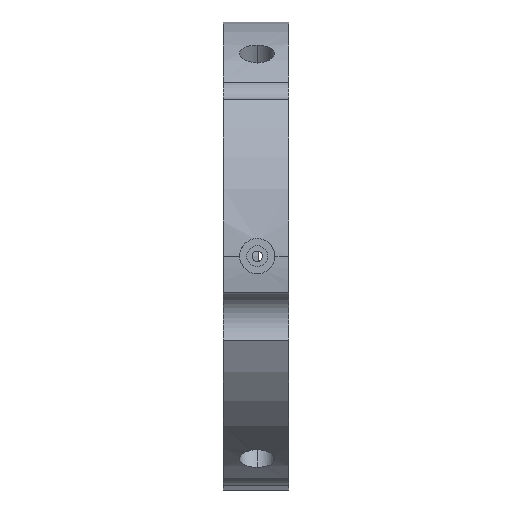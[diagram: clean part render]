
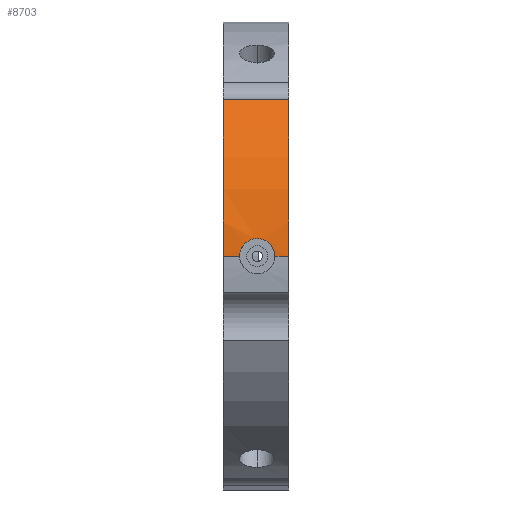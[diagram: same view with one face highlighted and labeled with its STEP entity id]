
A CAD part, left-side view. The second image highlights one B-rep face of the part: STEP entity #8703.
In plain terms, the highlighted cylindrical face has radius 90 mm (diameter 180 mm), a partial arc.
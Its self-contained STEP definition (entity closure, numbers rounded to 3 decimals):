
#34 = CARTESIAN_POINT ( 'NONE',  ( -89.984, 20.545, 1.754 ) ) ;
#73 = CARTESIAN_POINT ( 'NONE',  ( -89.857, 9.554, 5.088 ) ) ;
#272 = CARTESIAN_POINT ( 'NONE',  ( -89.747, 14.012, 6.75 ) ) ;
#592 = CARTESIAN_POINT ( 'NONE',  ( -89.996, 20.707, 0.883 ) ) ;
#688 = DIRECTION ( 'NONE',  ( 0., -1., 0. ) ) ;
#734 = CARTESIAN_POINT ( 'NONE',  ( -89.951, 20.078, 2.993 ) ) ;
#785 = CARTESIAN_POINT ( 'NONE',  ( -90., 7.262, 0. ) ) ;
#809 = CARTESIAN_POINT ( 'NONE',  ( -89.763, 12.262, 6.534 ) ) ;
#1043 = VERTEX_POINT ( 'NONE', #272 ) ;
#1160 = CIRCLE ( 'NONE', #3391, 90. ) ;
#1199 = LINE ( 'NONE', #1677, #2177 ) ;
#1379 = CARTESIAN_POINT ( 'NONE',  ( -89.759, 15.55, 6.576 ) ) ;
#1471 = CARTESIAN_POINT ( 'NONE',  ( -89.975, 20.418, 2.172 ) ) ;
#1491 = EDGE_CURVE ( 'NONE', #6153, #3607, #5077, .T. ) ;
#1533 = CARTESIAN_POINT ( 'NONE',  ( -90., 1.983, 0. ) ) ;
#1650 = CARTESIAN_POINT ( 'NONE',  ( -89.975, 7.606, 2.175 ) ) ;
#1677 = CARTESIAN_POINT ( 'NONE',  ( -90., -8.017, 0. ) ) ;
#1694 = CARTESIAN_POINT ( 'NONE',  ( -89.937, 8.163, 3.376 ) ) ;
#1792 = DIRECTION ( 'NONE',  ( 0., 1., 0. ) ) ;
#1852 = CARTESIAN_POINT ( 'NONE',  ( -66.921, 1.983, 60.18 ) ) ;
#1878 = DIRECTION ( 'NONE',  ( 0., 1., 0. ) ) ;
#1911 = ORIENTED_EDGE ( 'NONE', *, *, #6488, .F. ) ;
#2030 = CARTESIAN_POINT ( 'NONE',  ( -89.993, 20.674, 1.104 ) ) ;
#2118 = ORIENTED_EDGE ( 'NONE', *, *, #3964, .T. ) ;
#2177 = VECTOR ( 'NONE', #3833, 1000. ) ;
#2258 = CARTESIAN_POINT ( 'NONE',  ( -90., 26.983, 0. ) ) ;
#2303 = ORIENTED_EDGE ( 'NONE', *, *, #1491, .F. ) ;
#2346 = CARTESIAN_POINT ( 'NONE',  ( -90., 7.262, 0.443 ) ) ;
#2435 = CARTESIAN_POINT ( 'NONE',  ( -66.921, 9.483, 60.18 ) ) ;
#2557 = DIRECTION ( 'NONE',  ( 0., 1., 0. ) ) ;
#2594 = VERTEX_POINT ( 'NONE', #2258 ) ;
#2689 = CARTESIAN_POINT ( 'NONE',  ( -89.763, 15.762, 6.523 ) ) ;
#2698 = CARTESIAN_POINT ( 'NONE',  ( 0., 1.983, 0. ) ) ;
#2863 = B_SPLINE_CURVE_WITH_KNOTS ( 'NONE', 3,
 ( #3756, #2960, #6631, #809, #4510, #5838, #7984, #7380, #73, #3654, #5221, #5266, #2906, #7422, #1694, #8082, #3003, #1650, #6535, #5882, #2346, #8767 ),
 .UNSPECIFIED., .F., .F.,
 ( 4, 2, 2, 2, 2, 2, 2, 2, 2, 2, 4 ),
 ( 0., 0.125, 0.25, 0.375, 0.5, 0.562, 0.625, 0.687, 0.75, 0.875, 1. ),
 .UNSPECIFIED. ) ;
#2871 = CARTESIAN_POINT ( 'NONE',  ( -89.75, 14.896, 6.707 ) ) ;
#2882 = ORIENTED_EDGE ( 'NONE', *, *, #6914, .T. ) ;
#2906 = CARTESIAN_POINT ( 'NONE',  ( -89.914, 8.521, 3.933 ) ) ;
#2960 = CARTESIAN_POINT ( 'NONE',  ( -89.747, 13.569, 6.75 ) ) ;
#3003 = CARTESIAN_POINT ( 'NONE',  ( -89.957, 7.862, 2.791 ) ) ;
#3305 = DIRECTION ( 'NONE',  ( -1., 0., 0. ) ) ;
#3328 = ORIENTED_EDGE ( 'NONE', *, *, #5396, .T. ) ;
#3391 = AXIS2_PLACEMENT_3D ( 'NONE', #2698, #2557, #3305 ) ;
#3525 = AXIS2_PLACEMENT_3D ( 'NONE', #6868, #1878, #6126 ) ;
#3579 = CARTESIAN_POINT ( 'NONE',  ( -89.773, 16.183, 6.395 ) ) ;
#3607 = VERTEX_POINT ( 'NONE', #785 ) ;
#3654 = CARTESIAN_POINT ( 'NONE',  ( -89.882, 9.083, 4.617 ) ) ;
#3756 = CARTESIAN_POINT ( 'NONE',  ( -89.747, 14.012, 6.75 ) ) ;
#3801 = DIRECTION ( 'NONE',  ( 0., 1., 0. ) ) ;
#3833 = DIRECTION ( 'NONE',  ( 0., 1., 0. ) ) ;
#3964 = EDGE_CURVE ( 'NONE', #7134, #1043, #8498, .T. ) ;
#4046 = FACE_OUTER_BOUND ( 'NONE', #5377, .T. ) ;
#4179 = CARTESIAN_POINT ( 'NONE',  ( -66.921, 26.983, 60.18 ) ) ;
#4284 = AXIS2_PLACEMENT_3D ( 'NONE', #8265, #1792, #7621 ) ;
#4332 = CARTESIAN_POINT ( 'NONE',  ( -90., 20.762, 0.222 ) ) ;
#4339 = LINE ( 'NONE', #2435, #4736 ) ;
#4510 = CARTESIAN_POINT ( 'NONE',  ( -89.772, 11.839, 6.406 ) ) ;
#4736 = VECTOR ( 'NONE', #688, 1000. ) ;
#4898 = CARTESIAN_POINT ( 'NONE',  ( -89.809, 17.394, 5.858 ) ) ;
#4940 = CARTESIAN_POINT ( 'NONE',  ( -89.795, 17.002, 6.067 ) ) ;
#5077 = LINE ( 'NONE', #5925, #6466 ) ;
#5221 = CARTESIAN_POINT ( 'NONE',  ( -89.89, 8.934, 4.453 ) ) ;
#5266 = CARTESIAN_POINT ( 'NONE',  ( -89.906, 8.654, 4.112 ) ) ;
#5377 = EDGE_LOOP ( 'NONE', ( #2303, #2882, #1911, #7785, #5507, #2118, #3328 ) ) ;
#5396 = EDGE_CURVE ( 'NONE', #1043, #3607, #2863, .T. ) ;
#5501 = CYLINDRICAL_SURFACE ( 'NONE', #4284, 90. ) ;
#5507 = ORIENTED_EDGE ( 'NONE', *, *, #8285, .F. ) ;
#5657 = CARTESIAN_POINT ( 'NONE',  ( -89.906, 19.377, 4.119 ) ) ;
#5838 = CARTESIAN_POINT ( 'NONE',  ( -89.795, 11.019, 6.067 ) ) ;
#5882 = CARTESIAN_POINT ( 'NONE',  ( -89.997, 7.305, 0.882 ) ) ;
#5925 = CARTESIAN_POINT ( 'NONE',  ( -90., -8.017, 0. ) ) ;
#6126 = DIRECTION ( 'NONE',  ( -1., 0., 0. ) ) ;
#6153 = VERTEX_POINT ( 'NONE', #1533 ) ;
#6195 = VERTEX_POINT ( 'NONE', #1852 ) ;
#6275 = CARTESIAN_POINT ( 'NONE',  ( -89.857, 18.472, 5.086 ) ) ;
#6407 = CARTESIAN_POINT ( 'NONE',  ( -89.89, 19.098, 4.46 ) ) ;
#6466 = VECTOR ( 'NONE', #3801, 1000. ) ;
#6488 = EDGE_CURVE ( 'NONE', #8760, #6195, #4339, .T. ) ;
#6535 = CARTESIAN_POINT ( 'NONE',  ( -89.984, 7.478, 1.751 ) ) ;
#6631 = CARTESIAN_POINT ( 'NONE',  ( -89.75, 13.133, 6.707 ) ) ;
#6868 = CARTESIAN_POINT ( 'NONE',  ( 0., 26.983, 0. ) ) ;
#6914 = EDGE_CURVE ( 'NONE', #6153, #6195, #1160, .T. ) ;
#7134 = VERTEX_POINT ( 'NONE', #7439 ) ;
#7152 = CARTESIAN_POINT ( 'NONE',  ( -90., 20.762, 0. ) ) ;
#7197 = CARTESIAN_POINT ( 'NONE',  ( -89.937, 19.869, 3.384 ) ) ;
#7380 = CARTESIAN_POINT ( 'NONE',  ( -89.84, 9.893, 5.366 ) ) ;
#7422 = CARTESIAN_POINT ( 'NONE',  ( -89.93, 8.276, 3.565 ) ) ;
#7439 = CARTESIAN_POINT ( 'NONE',  ( -90., 20.762, 0. ) ) ;
#7621 = DIRECTION ( 'NONE',  ( -1., 0., 0. ) ) ;
#7771 = CARTESIAN_POINT ( 'NONE',  ( -89.747, 14.012, 6.75 ) ) ;
#7785 = ORIENTED_EDGE ( 'NONE', *, *, #8665, .F. ) ;
#7984 = CARTESIAN_POINT ( 'NONE',  ( -89.81, 10.628, 5.858 ) ) ;
#8082 = CARTESIAN_POINT ( 'NONE',  ( -89.951, 7.955, 2.989 ) ) ;
#8265 = CARTESIAN_POINT ( 'NONE',  ( 0., -8.017, 0. ) ) ;
#8285 = EDGE_CURVE ( 'NONE', #7134, #2594, #1199, .T. ) ;
#8329 = CIRCLE ( 'NONE', #3525, 90. ) ;
#8453 = CARTESIAN_POINT ( 'NONE',  ( -89.999, 20.751, 0.443 ) ) ;
#8498 = B_SPLINE_CURVE_WITH_KNOTS ( 'NONE', 3,
 ( #7152, #4332, #8453, #592, #2030, #34, #1471, #734, #7197, #5657, #6407, #6275, #8506, #4898, #4940, #9116, #3579, #2689, #1379, #2871, #8593, #7771 ),
 .UNSPECIFIED., .F., .F.,
 ( 4, 2, 2, 2, 2, 2, 2, 2, 2, 2, 4 ),
 ( 0., 0.063, 0.125, 0.25, 0.375, 0.5, 0.625, 0.75, 0.813, 0.875, 1. ),
 .UNSPECIFIED. ) ;
#8506 = CARTESIAN_POINT ( 'NONE',  ( -89.84, 18.132, 5.365 ) ) ;
#8593 = CARTESIAN_POINT ( 'NONE',  ( -89.747, 14.456, 6.75 ) ) ;
#8665 = EDGE_CURVE ( 'NONE', #2594, #8760, #8329, .T. ) ;
#8703 = ADVANCED_FACE ( 'NONE', ( #4046 ), #5501, .T. ) ;
#8760 = VERTEX_POINT ( 'NONE', #4179 ) ;
#8767 = CARTESIAN_POINT ( 'NONE',  ( -90., 7.262, 0. ) ) ;
#9116 = CARTESIAN_POINT ( 'NONE',  ( -89.778, 16.39, 6.321 ) ) ;
